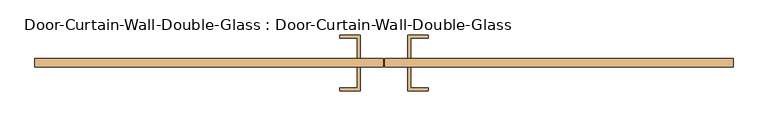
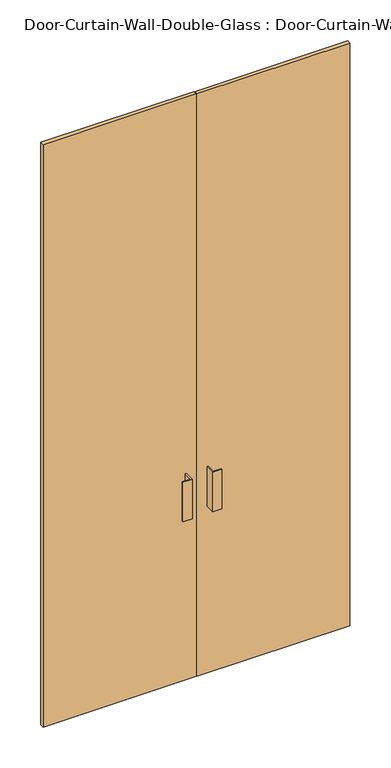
"""IFC4 building model written with IfcOpenShell, lengths in millimetres: door geometry, Door-Curtain-Wall-Double-Glass : Door-Curtain-Wall-Double-Glass."""

from ifc_helpers import new_model, si_unit, frame, origin, origin_with_axes, place, context, project, spatial, polyline, outline, extrude, source, transform, mapped, element, save


def door_curtain_wall_double_glass_door_curtain_wall_double_2d87b983(model_context):
    return source(origin(), model_context, "Body", "SweptSolid", [
        extrude(outline(polyline([(-1.6143999, -31.75), (-1.6143999, -50.8), (-749.3, -50.8), (-749.3, -31.75), (-1.6143999, -31.75)])), origin_with_axes(), (0.0, 0.0, 1.0), 3009.9),
        extrude(outline(polyline([(749.3, -31.75), (749.3, -50.8), (1.5606001, -50.8), (1.5606001, -31.75), (749.3, -31.75)])), origin_with_axes(), (0.0, 0.0, 1.0), 3009.9),
        extrude(outline(polyline([(-50.8268999, -101.6), (-95.2768999, -101.6), (-95.2768999, -95.25), (-57.1768999, -95.25), (-57.1768999, -50.8), (-50.8268999, -50.8), (-50.8268999, -101.6)])), frame((0.0, 0.0, 863.6), z_axis=(0.0, 0.0, 1.0), x_axis=(1.0, 0.0, 0.0)), (0.0, 0.0, 1.0), 203.2),
        extrude(outline(polyline([(50.7731001, -101.6), (50.7731001, -50.8), (57.1231001, -50.8), (57.1231001, -95.25), (95.2231001, -95.25), (95.2231001, -101.6), (50.7731001, -101.6)])), frame((0.0, 0.0, 863.6), z_axis=(0.0, 0.0, 1.0), x_axis=(1.0, 0.0, 0.0)), (0.0, 0.0, 1.0), 203.2),
        extrude(outline(polyline([(-50.8268999, 19.05), (-50.8268999, -31.75), (-57.1768999, -31.75), (-57.1768999, 12.7), (-95.2768999, 12.7), (-95.2768999, 19.05), (-50.8268999, 19.05)])), frame((0.0, 0.0, 863.6), z_axis=(0.0, 0.0, 1.0), x_axis=(1.0, 0.0, 0.0)), (0.0, 0.0, 1.0), 203.2),
        extrude(outline(polyline([(50.7731001, 19.05), (95.2231001, 19.05), (95.2231001, 12.7), (57.1231001, 12.7), (57.1231001, -31.75), (50.7731001, -31.75), (50.7731001, 19.05)])), frame((0.0, 0.0, 863.6), z_axis=(0.0, 0.0, 1.0), x_axis=(1.0, 0.0, 0.0)), (0.0, 0.0, 1.0), 203.2),
    ])


if __name__ == "__main__":
    model = new_model("IFC4")
    model_context = context("Model", 3, world=origin())
    ifc_project = project(units=[si_unit("LENGTHUNIT", "METRE", prefix="MILLI")], contexts=[model_context])
    site = spatial("IfcSite", under=ifc_project)
    building = spatial("IfcBuilding", under=site)
    placement = place(None, origin())
    door_curtain_wall_double_glass_door_curtain_wall_double_shape = door_curtain_wall_double_glass_door_curtain_wall_double_2d87b983(model_context)
    element("IfcDoor", 1, ObjectType="Door-Curtain-Wall-Double-Glass : Door-Curtain-Wall-Double-Glass", at=placement, inside=building, context=model_context, shape_type="MappedRepresentation", body=[
        mapped(door_curtain_wall_double_glass_door_curtain_wall_double_shape, transform((0.0, 0.0, 0.0), x_axis=(1.0, 0.0, 0.0), y_axis=(0.0, 1.0, 0.0), z_axis=(0.0, 0.0, 1.0))),
    ])
    save(model, "model.ifc")
